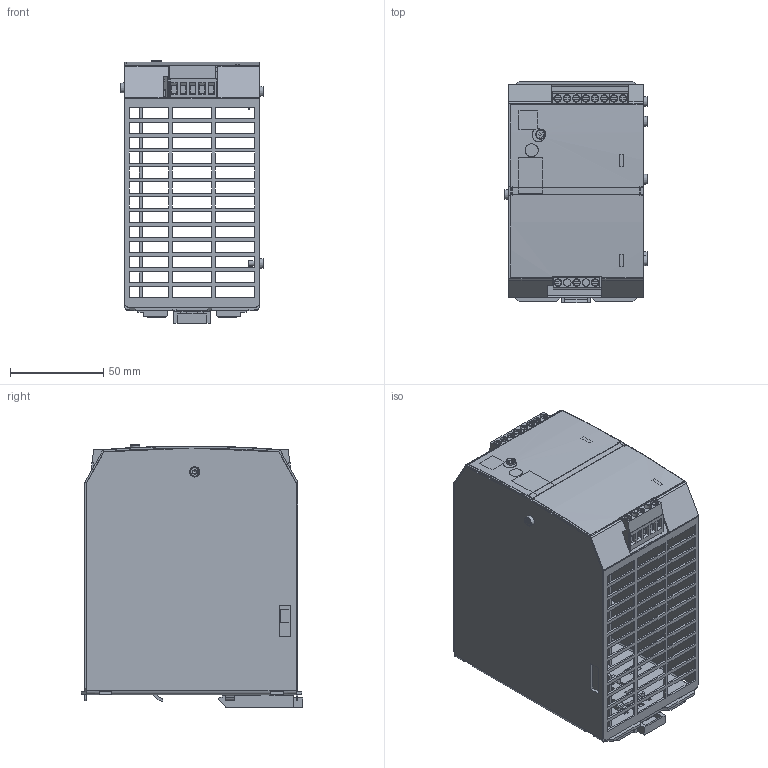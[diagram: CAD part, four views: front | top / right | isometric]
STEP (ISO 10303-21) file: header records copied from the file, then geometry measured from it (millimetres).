
FILE_DESCRIPTION((''),'2;1');
FILE_NAME('M:\Disegni\Progetti\1_1 Alimentatori rete\FLEX\FLEX280\Immagini & Rendering\FLEX28024A_Assembly.stp','2015-12-01T09:17:28',('Tecnico2'),(''),'Autodesk Inventor 2012','Autodesk Inventor 2012','');
FILE_SCHEMA(('AUTOMOTIVE_DESIGN { 1 0 10303 214 1 1 1 1 }'));
Length unit declared in the file: millimetre
Products named in the file (21): FLEX28024A_Assembly; FLEX280_Assembly; M3M_00F_035A5_Fondo; M3M_00C_035A8_Coperchio; CS Flex280xxA Master; FLEX280xxA CS_MASTER; CS Flex280xxA In_Out; FLEX280xxA CS_IN_OUT; SAURO 3P p.10 msq03002; SAURO 3P p.5 msq03001; SAURO 2P p.5 msq02001; MQF.002.100A5_Morsetto di terra; Perno Trimmer Piccolo; Potenziometro CA9H2.5 Verticale; Strip 1P_3; Jumper; Strip 2P_3; MGP.451.90MA5_Gancio Din; Screw GB_T 2171.1 M3 x 6; MSNE-4; FLEX28024A Etichetta
Assembly tree (28 placements, depth 5):
  FLEX28024A_Assembly
    FLEX280_Assembly
      M3M_00F_035A5_Fondo
      M3M_00C_035A8_Coperchio
      CS Flex280xxA Master
        FLEX280xxA CS_MASTER
        CS Flex280xxA In_Out
          FLEX280xxA CS_IN_OUT
          SAURO 3P p.10 msq03002
          SAURO 3P p.5 msq03001  x2
          SAURO 2P p.5 msq02001
          MQF.002.100A5_Morsetto di terra  x2
        Perno Trimmer Piccolo
        Potenziometro CA9H2.5 Verticale
        Strip 1P_3
        Jumper  x2
        Strip 2P_3
      MGP.451.90MA5_Gancio Din
      Screw GB_T 2171.1 M3 x 6  x6
      MSNE-4
    FLEX28024A Etichetta
Bounding box: 76.8 x 118.65 x 140.55 mm (x, y, z)
Volume: 115839.4 mm3; surface area: 177480.8 mm2
Topology: 40 solids, 40 shells, 2471 faces, 6465 edges, 4214 vertices
Faces by surface type: plane 1991, cylinder 404, torus 44, cone 26, sphere 4, bspline 2
Full cylindrical faces by diameter (mm): 1 x64, 1.4 x11, 1.52 x4, 2 x4, 2.15 x1, 2.675 x6, 2.7 x2, 2.8 x2, 3 x6, 3.3 x6, 3.5 x1, 3.85 x11, 4 x13, 4.7 x2, 5 x5, 6.7 x1, 9 x1
Entity records: 66287 total; most frequent: CARTESIAN_POINT 14033, ORIENTED_EDGE 10536, DIRECTION 10050, EDGE_CURVE 5268, VECTOR 4432, LINE 4432, VERTEX_POINT 3496, AXIS2_PLACEMENT_3D 2809
